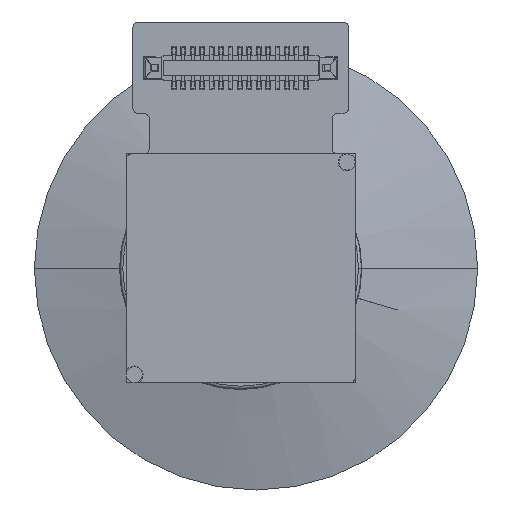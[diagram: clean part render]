
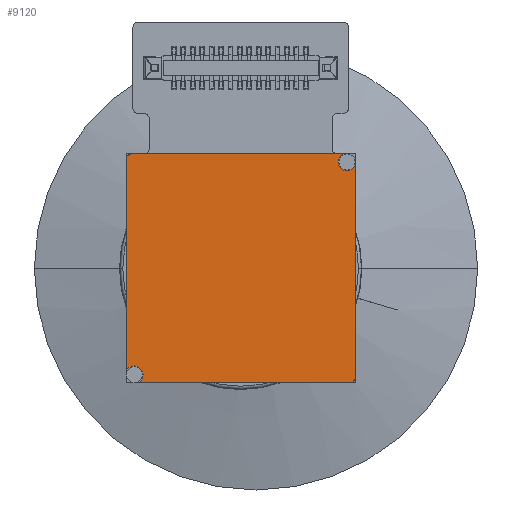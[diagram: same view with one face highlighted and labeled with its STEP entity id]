
A CAD part, front view. The second image highlights one B-rep face of the part: STEP entity #9120.
In plain terms, the highlighted planar face has unit normal (0, -1, 0).
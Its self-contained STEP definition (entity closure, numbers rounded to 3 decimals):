
#8904=CARTESIAN_POINT('',(-3.95,-0.18,-3.95));
#8905=DIRECTION('',(0.,1.,0.));
#8906=DIRECTION('',(-0.923,0.,0.385));
#8907=AXIS2_PLACEMENT_3D('',#8904,#8905,#8906);
#8912=DIRECTION('',(0.,0.,-1.));
#8913=VECTOR('',#8912,7.885);
#8914=CARTESIAN_POINT('',(-4.25,-0.18,4.06));
#8915=LINE('',#8914,#8913);
#8919=CARTESIAN_POINT('',(-4.06,-0.18,4.06));
#8920=DIRECTION('',(0.,-1.,0.));
#8921=DIRECTION('',(0.,0.,1.));
#8922=AXIS2_PLACEMENT_3D('',#8919,#8920,#8921);
#8927=CARTESIAN_POINT('',(3.95,-0.18,3.95));
#8928=DIRECTION('',(0.,1.,0.));
#8929=DIRECTION('',(0.923,0.,-0.385));
#8930=AXIS2_PLACEMENT_3D('',#8927,#8928,#8929);
#8935=DIRECTION('',(0.,0.,1.));
#8936=VECTOR('',#8935,7.885);
#8937=CARTESIAN_POINT('',(4.25,-0.18,-4.06));
#8938=LINE('',#8937,#8936);
#8942=CARTESIAN_POINT('',(4.06,-0.18,-4.06));
#8943=DIRECTION('',(0.,-1.,0.));
#8944=DIRECTION('',(0.,0.,-1.));
#8945=AXIS2_PLACEMENT_3D('',#8942,#8943,#8944);
#8950=DIRECTION('',(1.,0.,0.));
#8951=VECTOR('',#8950,7.885);
#8952=CARTESIAN_POINT('',(-3.825,-0.18,-4.25));
#8953=LINE('',#8952,#8951);
#8992=DIRECTION('',(-1.,0.,0.));
#8993=VECTOR('',#8992,7.885);
#8994=CARTESIAN_POINT('',(3.825,-0.18,4.25));
#8995=LINE('',#8994,#8993);
#9035=CARTESIAN_POINT('',(-4.06,-0.18,4.25));
#9036=CARTESIAN_POINT('',(-4.25,-0.18,4.06));
#9037=VERTEX_POINT('',#9035);
#9038=VERTEX_POINT('',#9036);
#9039=CARTESIAN_POINT('',(4.06,-0.18,-4.25));
#9040=CARTESIAN_POINT('',(4.25,-0.18,-4.06));
#9041=VERTEX_POINT('',#9039);
#9042=VERTEX_POINT('',#9040);
#9051=CARTESIAN_POINT('',(-4.25,-0.18,-3.825));
#9052=CARTESIAN_POINT('',(-3.825,-0.18,-4.25));
#9053=VERTEX_POINT('',#9051);
#9054=VERTEX_POINT('',#9052);
#9055=CARTESIAN_POINT('',(4.25,-0.18,3.825));
#9056=CARTESIAN_POINT('',(3.825,-0.18,4.25));
#9057=VERTEX_POINT('',#9055);
#9058=VERTEX_POINT('',#9056);
#9098=CARTESIAN_POINT('',(0.,-0.18,0.));
#9099=DIRECTION('',(0.,-1.,0.));
#9100=DIRECTION('',(1.,0.,0.));
#9101=AXIS2_PLACEMENT_3D('',#9098,#9099,#9100);
#9102=PLANE('',#9101);
#9103=ORIENTED_EDGE('',*,*,#9088,.F.);
#9105=ORIENTED_EDGE('',*,*,#9104,.F.);
#9107=ORIENTED_EDGE('',*,*,#9106,.F.);
#9109=ORIENTED_EDGE('',*,*,#9108,.F.);
#9111=ORIENTED_EDGE('',*,*,#9110,.F.);
#9113=ORIENTED_EDGE('',*,*,#9112,.F.);
#9115=ORIENTED_EDGE('',*,*,#9114,.F.);
#9117=ORIENTED_EDGE('',*,*,#9116,.F.);
#9118=EDGE_LOOP('',(#9103,#9105,#9107,#9109,#9111,#9113,#9115,#9117));
#9119=FACE_OUTER_BOUND('',#9118,.F.);
#8908=CIRCLE('',#8907,0.325);
#8923=CIRCLE('',#8922,0.19);
#8931=CIRCLE('',#8930,0.325);
#8946=CIRCLE('',#8945,0.19);
#9088=EDGE_CURVE('',#9053,#9054,#8908,.T.);
#9104=EDGE_CURVE('',#9038,#9053,#8915,.T.);
#9106=EDGE_CURVE('',#9037,#9038,#8923,.T.);
#9108=EDGE_CURVE('',#9058,#9037,#8995,.T.);
#9110=EDGE_CURVE('',#9057,#9058,#8931,.T.);
#9112=EDGE_CURVE('',#9042,#9057,#8938,.T.);
#9114=EDGE_CURVE('',#9041,#9042,#8946,.T.);
#9116=EDGE_CURVE('',#9054,#9041,#8953,.T.);
#9120=ADVANCED_FACE('',(#9119),#9102,.T.);
